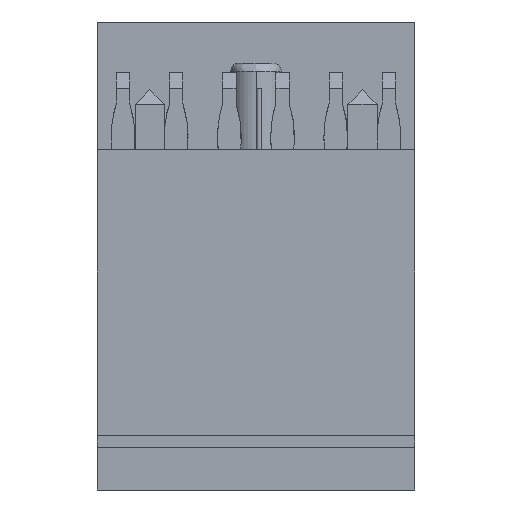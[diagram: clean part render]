
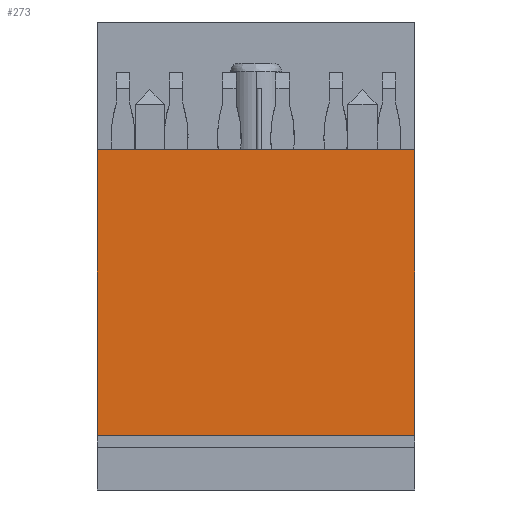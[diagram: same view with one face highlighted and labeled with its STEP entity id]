
A CAD part, front view. The second image highlights one B-rep face of the part: STEP entity #273.
In plain terms, the highlighted planar face has unit normal (0, -1, 0).
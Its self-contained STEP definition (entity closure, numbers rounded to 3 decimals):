
#273 = ADVANCED_FACE ( 'NONE', ( #3733 ), #4490, .F. ) ;
#411 = EDGE_CURVE ( 'NONE', #2271, #1941, #1462, .T. ) ;
#583 = EDGE_CURVE ( 'NONE', #1941, #1932, #4915, .T. ) ;
#652 = EDGE_CURVE ( 'NONE', #1928, #1932, #5862, .T. ) ;
#690 = EDGE_CURVE ( 'NONE', #2271, #1928, #5983, .T. ) ;
#784 = VECTOR ( 'NONE', #4902, 1000. ) ;
#857 = VECTOR ( 'NONE', #5885, 1000. ) ;
#898 = VECTOR ( 'NONE', #5985, 1000. ) ;
#1459 = DIRECTION ( 'NONE',  ( -1., 0., 0. ) ) ;
#1460 = CARTESIAN_POINT ( 'NONE',  ( 5.975, 0., -10.85 ) ) ;
#1462 = LINE ( 'NONE', #1460, #5138 ) ;
#1928 = VERTEX_POINT ( 'NONE', #6175 ) ;
#1932 = VERTEX_POINT ( 'NONE', #6177 ) ;
#1941 = VERTEX_POINT ( 'NONE', #6185 ) ;
#2032 = ORIENTED_EDGE ( 'NONE', *, *, #652, .T. ) ;
#2033 = ORIENTED_EDGE ( 'NONE', *, *, #583, .F. ) ;
#2271 = VERTEX_POINT ( 'NONE', #6242 ) ;
#2728 = ORIENTED_EDGE ( 'NONE', *, *, #411, .F. ) ;
#2736 = ORIENTED_EDGE ( 'NONE', *, *, #690, .T. ) ;
#3096 = EDGE_LOOP ( 'NONE', ( #2736, #2032, #2033, #2728 ) ) ;
#3677 = DIRECTION ( 'NONE',  ( 0., 0., 1. ) ) ;
#3733 = FACE_OUTER_BOUND ( 'NONE', #3096, .T. ) ;
#4197 = CARTESIAN_POINT ( 'NONE',  ( 0., 0., -10.85 ) ) ;
#4490 = PLANE ( 'NONE',  #5737 ) ;
#4647 = DIRECTION ( 'NONE',  ( 0., 1., 0. ) ) ;
#4902 = DIRECTION ( 'NONE',  ( 0., 0., 1. ) ) ;
#4903 = CARTESIAN_POINT ( 'NONE',  ( 0., 0., -5.475 ) ) ;
#4915 = LINE ( 'NONE', #4903, #784 ) ;
#5138 = VECTOR ( 'NONE', #1459, 1000. ) ;
#5737 = AXIS2_PLACEMENT_3D ( 'NONE', #4197, #4647, #3677 ) ;
#5862 = LINE ( 'NONE', #5871, #857 ) ;
#5871 = CARTESIAN_POINT ( 'NONE',  ( 0., 0., -0.1 ) ) ;
#5885 = DIRECTION ( 'NONE',  ( -1., 0., 0. ) ) ;
#5983 = LINE ( 'NONE', #5984, #898 ) ;
#5984 = CARTESIAN_POINT ( 'NONE',  ( 11.95, 0., -5.475 ) ) ;
#5985 = DIRECTION ( 'NONE',  ( 0., 0., 1. ) ) ;
#6175 = CARTESIAN_POINT ( 'NONE',  ( 11.95, 0., -0.1 ) ) ;
#6177 = CARTESIAN_POINT ( 'NONE',  ( 0., 0., -0.1 ) ) ;
#6185 = CARTESIAN_POINT ( 'NONE',  ( 0., 0., -10.85 ) ) ;
#6242 = CARTESIAN_POINT ( 'NONE',  ( 11.95, 0., -10.85 ) ) ;
